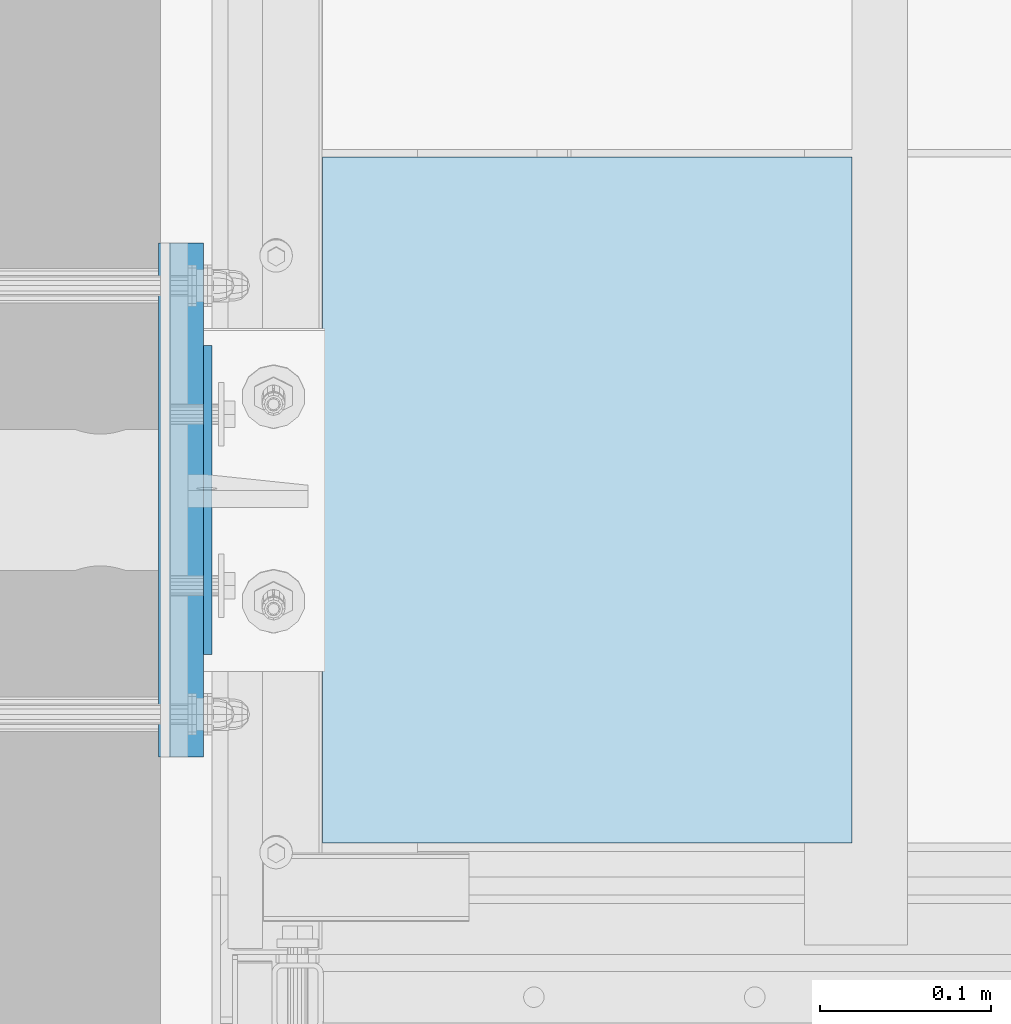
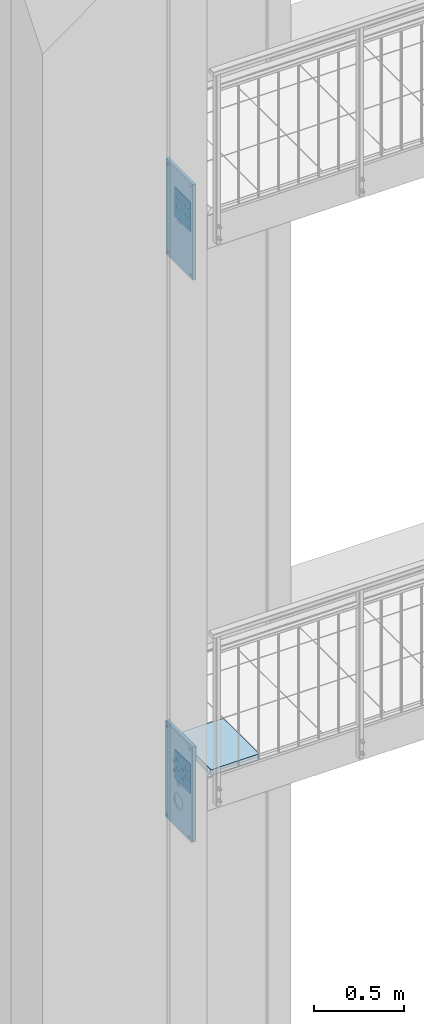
# One storey, part 56 of 162: 6 plates, 28 openings.
"""IFC2X3 building model written with IfcOpenShell, lengths in millimetres."""

from ifc_helpers import new_model, entity, si_unit, converted_unit, point, frame, frame_2d, origin, origin_with_axes, place, context, project, spatial, polyline, circle_curve, line_curve, trimmed, segment, composite_curve, circle, outline, extrude, material, layer, layer_set, element, save


model = new_model("IFC2X3")

# Units and contexts
model_context = context("Model", 3, precision=1e-09, world=origin_with_axes())
ifc_project = project(units=[si_unit("LENGTHUNIT", "METRE", prefix="MILLI"), si_unit("AREAUNIT", "SQUARE_METRE"), si_unit("VOLUMEUNIT", "CUBIC_METRE"), converted_unit("PLANEANGLEUNIT", "DEGREE", entity("IfcPlaneAngleMeasure", 0.01745329), si_unit("PLANEANGLEUNIT", "RADIAN"), dimensions=[0, 0, 0, 0, 0, 0, 0])], contexts=[model_context])

# Site, building, storey
site_placement = place(None, origin_with_axes())
site = spatial("IfcSite", under=ifc_project, at=site_placement, Name="Hermannstra?e 1a, 60318 Frankfurt", CompositionType="ELEMENT")
building_placement = place(site_placement, origin_with_axes())
building = spatial("IfcBuilding", under=site, at=building_placement, Name="Struktur 1", CompositionType="ELEMENT")
storey_placement = place(building_placement, origin_with_axes())
storey = spatial("IfcBuildingStorey", under=building, at=storey_placement, Name="Default Storey", CompositionType="ELEMENT", Elevation=0.0)

# Plate, openings
ifc_material_1 = material(Name="S235JR")
ifc_layer_1 = layer(ifc_material_1, 20.0)
ifc_layer_set_1 = layer_set([ifc_layer_1], Name="S235JR")
plate_1_placement = place(None, frame((2528.308657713, 1805.608666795, 7605.0), z_axis=(1.0, 0.0, 0.0), x_axis=(0.0, 1.0, 0.0)))
plate_1 = element("IfcPlate", 1, at=plate_1_placement, inside=storey, material=ifc_layer_set_1, Name="-", ObjectType="-", context=model_context, shape_type="SweptSolid", body=[
    extrude(outline(polyline([(-150.0, -325.0), (150.0, -325.0), (150.0, 325.0), (-150.0, 325.0), (-150.0, -325.0)])), origin_with_axes(), (0.0, 0.0, 1.0), 20.0),
])
opening_1_placement = place(plate_1_placement, frame((0.0, 0.0, -0.5), z_axis=(0.0, 0.0, 1.0), x_axis=(1.0, 0.0, 0.0)))
element("IfcOpeningElement", 2, at=opening_1_placement, cuts=plate_1, ObjectType="Opening", context=model_context, shape_type="SweptSolid", body=[
    extrude(circle(Radius=8.001, at=frame_2d((125.0, 300.0), x_axis=(1.0, 0.0))), origin(), (0.0, 0.0, 1.0), 21.0),
])
opening_2_placement = place(plate_1_placement, frame((0.0, 0.0, -0.5), z_axis=(0.0, 0.0, 1.0), x_axis=(1.0, 0.0, 0.0)))
element("IfcOpeningElement", 3, at=opening_2_placement, cuts=plate_1, ObjectType="Opening", context=model_context, shape_type="SweptSolid", body=[
    extrude(circle(Radius=8.001, at=frame_2d((-125.0, 300.0), x_axis=(1.0, 0.0))), origin(), (0.0, 0.0, 1.0), 21.0),
])
opening_3_placement = place(plate_1_placement, frame((0.0, 0.0, -0.5), z_axis=(0.0, 0.0, 1.0), x_axis=(1.0, 0.0, 0.0)))
element("IfcOpeningElement", 4, at=opening_3_placement, cuts=plate_1, ObjectType="Opening", context=model_context, shape_type="SweptSolid", body=[
    extrude(circle(Radius=8.001, at=frame_2d((125.0, -300.0), x_axis=(1.0, 0.0))), origin(), (0.0, 0.0, 1.0), 21.0),
])
opening_4_placement = place(plate_1_placement, frame((0.0, 0.0, -0.5), z_axis=(0.0, 0.0, 1.0), x_axis=(1.0, 0.0, 0.0)))
element("IfcOpeningElement", 5, at=opening_4_placement, cuts=plate_1, ObjectType="Opening", context=model_context, shape_type="SweptSolid", body=[
    extrude(circle(Radius=8.001, at=frame_2d((-125.0, -300.0), x_axis=(1.0, 0.0))), origin(), (0.0, 0.0, 1.0), 21.0),
])
opening_5_placement = place(plate_1_placement, frame((0.0, -5.0, -0.5), z_axis=(0.0, 0.0, 1.0), x_axis=(1.0, 0.0, 0.0)))
element("IfcOpeningElement", 6, at=opening_5_placement, cuts=plate_1, ObjectType="Opening", context=model_context, shape_type="SweptSolid", body=[
    extrude(circle(Radius=15.001, at=frame_2d((0.0, -10.0), x_axis=(1.0, 0.0))), origin(), (0.0, 0.0, 1.0), 21.0),
])

ifc_layer_2 = layer(ifc_material_1, 5.0)
ifc_layer_set_2 = layer_set([ifc_layer_2], Name="S235JR")
plate_2_placement = place(None, frame((2548.308657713, 1805.608666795, 7665.0), z_axis=(1.0, 0.0, 0.0), x_axis=(0.0, 1.0, 0.0)))
plate_2 = element("IfcPlate", 7, at=plate_2_placement, inside=storey, material=ifc_layer_set_2, Name="-", ObjectType="-", context=model_context, shape_type="SweptSolid", body=[
    extrude(outline(polyline([(-90.0, -100.0), (90.0, -100.0), (90.0, 100.0), (-90.0, 100.0), (-90.0, -100.0)])), origin_with_axes(), (0.0, 0.0, 1.0), 5.0),
])
opening_6_placement = place(plate_2_placement, frame((-2e-08, 19.999999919, -0.5), z_axis=(0.0, 0.0, 1.0), x_axis=(1.0, 0.0, 0.0)))
element("IfcOpeningElement", 8, at=opening_6_placement, cuts=plate_2, ObjectType="Opening", context=model_context, shape_type="SweptSolid", body=[
    extrude(outline(composite_curve([segment(trimmed(line_curve((41.5, 20.999), (1.0, 0.0), 17.0), [point((41.5, 20.999))], [point((58.5, 20.999))], True, "CARTESIAN"), True, "CONTINUOUS"), segment(trimmed(circle_curve(frame_2d((58.5, 30.0), x_axis=(1.0, 0.0)), 9.001), [point((58.5, 20.999))], [point((58.5, 39.001))], True, "CARTESIAN"), True, "CONTINUOUS"), segment(trimmed(line_curve((58.5, 39.001), (-1.0, 0.0), 17.0), [point((58.5, 39.001))], [point((41.5, 39.001))], True, "CARTESIAN"), True, "CONTINUOUS"), segment(trimmed(circle_curve(frame_2d((41.5, 30.0), x_axis=(1.0, 0.0)), 9.001), [point((41.5, 39.001))], [point((41.5, 20.999))], True, "CARTESIAN"), True, "CONTINUOUS")], self_intersect=False)), origin(), (0.0, 0.0, 1.0), 6.0),
])
opening_7_placement = place(plate_2_placement, frame((-2e-08, 19.999999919, -0.5), z_axis=(0.0, 0.0, 1.0), x_axis=(1.0, 0.0, 0.0)))
element("IfcOpeningElement", 9, at=opening_7_placement, cuts=plate_2, ObjectType="Opening", context=model_context, shape_type="SweptSolid", body=[
    extrude(outline(composite_curve([segment(trimmed(line_curve((-58.5, 20.999), (1.0, 0.0), 17.0), [point((-58.5, 20.999))], [point((-41.5, 20.999))], True, "CARTESIAN"), True, "CONTINUOUS"), segment(trimmed(circle_curve(frame_2d((-41.5, 30.0), x_axis=(1.0, 0.0)), 9.001), [point((-41.5, 20.999))], [point((-41.5, 39.001))], True, "CARTESIAN"), True, "CONTINUOUS"), segment(trimmed(line_curve((-41.5, 39.001), (-1.0, 0.0), 17.0), [point((-41.5, 39.001))], [point((-58.5, 39.001))], True, "CARTESIAN"), True, "CONTINUOUS"), segment(trimmed(circle_curve(frame_2d((-58.5, 30.0), x_axis=(1.0, 0.0)), 9.001), [point((-58.5, 39.001))], [point((-58.5, 20.999))], True, "CARTESIAN"), True, "CONTINUOUS")], self_intersect=False)), origin(), (0.0, 0.0, 1.0), 6.0),
])
opening_8_placement = place(plate_2_placement, frame((-2e-08, 19.999999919, -0.5), z_axis=(0.0, 0.0, 1.0), x_axis=(1.0, 0.0, 0.0)))
element("IfcOpeningElement", 10, at=opening_8_placement, cuts=plate_2, ObjectType="Opening", context=model_context, shape_type="SweptSolid", body=[
    extrude(outline(composite_curve([segment(trimmed(line_curve((41.5, -39.001), (1.0, 0.0), 17.0), [point((41.5, -39.001))], [point((58.5, -39.001))], True, "CARTESIAN"), True, "CONTINUOUS"), segment(trimmed(circle_curve(frame_2d((58.5, -30.0), x_axis=(1.0, 0.0)), 9.001), [point((58.5, -39.001))], [point((58.5, -20.999))], True, "CARTESIAN"), True, "CONTINUOUS"), segment(trimmed(line_curve((58.5, -20.999), (-1.0, 0.0), 17.0), [point((58.5, -20.999))], [point((41.5, -20.999))], True, "CARTESIAN"), True, "CONTINUOUS"), segment(trimmed(circle_curve(frame_2d((41.5, -30.0), x_axis=(1.0, 0.0)), 9.001), [point((41.5, -20.999))], [point((41.5, -39.001))], True, "CARTESIAN"), True, "CONTINUOUS")], self_intersect=False)), origin(), (0.0, 0.0, 1.0), 6.0),
])
opening_9_placement = place(plate_2_placement, frame((-2e-08, 19.999999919, -0.5), z_axis=(0.0, 0.0, 1.0), x_axis=(1.0, 0.0, 0.0)))
element("IfcOpeningElement", 11, at=opening_9_placement, cuts=plate_2, ObjectType="Opening", context=model_context, shape_type="SweptSolid", body=[
    extrude(outline(composite_curve([segment(trimmed(line_curve((-58.5, -39.001), (1.0, 0.0), 17.0), [point((-58.5, -39.001))], [point((-41.5, -39.001))], True, "CARTESIAN"), True, "CONTINUOUS"), segment(trimmed(circle_curve(frame_2d((-41.5, -30.0), x_axis=(1.0, 0.0)), 9.001), [point((-41.5, -39.001))], [point((-41.5, -20.999))], True, "CARTESIAN"), True, "CONTINUOUS"), segment(trimmed(line_curve((-41.5, -20.999), (-1.0, 0.0), 17.0), [point((-41.5, -20.999))], [point((-58.5, -20.999))], True, "CARTESIAN"), True, "CONTINUOUS"), segment(trimmed(circle_curve(frame_2d((-58.5, -30.0), x_axis=(1.0, 0.0)), 9.001), [point((-58.5, -20.999))], [point((-58.5, -39.001))], True, "CARTESIAN"), True, "CONTINUOUS")], self_intersect=False)), origin(), (0.0, 0.0, 1.0), 6.0),
])

ifc_material_2 = material(Name="Thermostop")
ifc_layer_3 = layer(ifc_material_2, 6.0)
ifc_layer_set_3 = layer_set([ifc_layer_3], Name="Thermostop")
plate_3_placement = place(None, frame((2522.310071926, 1805.610081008, 3780.0), z_axis=(1.0, 0.0, 0.0), x_axis=(0.0, 1.0, 0.0)))
plate_3 = element("IfcPlate", 12, at=plate_3_placement, inside=storey, material=ifc_layer_set_3, Name="-", ObjectType="-", context=model_context, shape_type="SweptSolid", body=[
    extrude(outline(polyline([(-150.0, -325.0), (150.0, -325.0), (150.0, 325.0), (-150.0, 325.0), (-150.0, -325.0)])), origin_with_axes(), (0.0, 0.0, 1.0), 6.0),
])
opening_10_placement = place(plate_3_placement, frame((0.0, 0.0, -0.5), z_axis=(0.0, 0.0, 1.0), x_axis=(1.0, 0.0, 0.0)))
element("IfcOpeningElement", 13, at=opening_10_placement, cuts=plate_3, ObjectType="Opening", context=model_context, shape_type="SweptSolid", body=[
    extrude(circle(Radius=10.001, at=frame_2d((125.0, 300.0), x_axis=(1.0, 0.0))), origin(), (0.0, 0.0, 1.0), 7.0),
])
opening_11_placement = place(plate_3_placement, frame((0.0, 0.0, -0.5), z_axis=(0.0, 0.0, 1.0), x_axis=(1.0, 0.0, 0.0)))
element("IfcOpeningElement", 14, at=opening_11_placement, cuts=plate_3, ObjectType="Opening", context=model_context, shape_type="SweptSolid", body=[
    extrude(circle(Radius=10.001, at=frame_2d((-125.0, 300.0), x_axis=(1.0, 0.0))), origin(), (0.0, 0.0, 1.0), 7.0),
])
opening_12_placement = place(plate_3_placement, frame((0.0, 0.0, -0.5), z_axis=(0.0, 0.0, 1.0), x_axis=(1.0, 0.0, 0.0)))
element("IfcOpeningElement", 15, at=opening_12_placement, cuts=plate_3, ObjectType="Opening", context=model_context, shape_type="SweptSolid", body=[
    extrude(circle(Radius=10.001, at=frame_2d((125.0, -300.0), x_axis=(1.0, 0.0))), origin(), (0.0, 0.0, 1.0), 7.0),
])
opening_13_placement = place(plate_3_placement, frame((0.0, 0.0, -0.5), z_axis=(0.0, 0.0, 1.0), x_axis=(1.0, 0.0, 0.0)))
element("IfcOpeningElement", 16, at=opening_13_placement, cuts=plate_3, ObjectType="Opening", context=model_context, shape_type="SweptSolid", body=[
    extrude(circle(Radius=10.001, at=frame_2d((-125.0, -300.0), x_axis=(1.0, 0.0))), origin(), (0.0, 0.0, 1.0), 7.0),
])
opening_14_placement = place(plate_3_placement, frame((0.0, -40.0, -0.5), z_axis=(0.0, 0.0, 1.0), x_axis=(1.0, 0.0, 0.0)))
element("IfcOpeningElement", 17, at=opening_14_placement, cuts=plate_3, ObjectType="Opening", context=model_context, shape_type="SweptSolid", body=[
    extrude(circle(Radius=11.001, at=frame_2d((50.0, 150.0), x_axis=(1.0, 0.0))), origin(), (0.0, 0.0, 1.0), 7.0),
])
opening_15_placement = place(plate_3_placement, frame((0.0, -40.0, -0.5), z_axis=(0.0, 0.0, 1.0), x_axis=(1.0, 0.0, 0.0)))
element("IfcOpeningElement", 18, at=opening_15_placement, cuts=plate_3, ObjectType="Opening", context=model_context, shape_type="SweptSolid", body=[
    extrude(circle(Radius=11.001, at=frame_2d((-50.0, 150.0), x_axis=(1.0, 0.0))), origin(), (0.0, 0.0, 1.0), 7.0),
])
opening_16_placement = place(plate_3_placement, frame((0.0, -40.0, -0.5), z_axis=(0.0, 0.0, 1.0), x_axis=(1.0, 0.0, 0.0)))
element("IfcOpeningElement", 19, at=opening_16_placement, cuts=plate_3, ObjectType="Opening", context=model_context, shape_type="SweptSolid", body=[
    extrude(circle(Radius=11.001, at=frame_2d((50.0, 90.0), x_axis=(1.0, 0.0))), origin(), (0.0, 0.0, 1.0), 7.0),
])
opening_17_placement = place(plate_3_placement, frame((0.0, -40.0, -0.5), z_axis=(0.0, 0.0, 1.0), x_axis=(1.0, 0.0, 0.0)))
element("IfcOpeningElement", 20, at=opening_17_placement, cuts=plate_3, ObjectType="Opening", context=model_context, shape_type="SweptSolid", body=[
    extrude(circle(Radius=11.001, at=frame_2d((-50.0, 90.0), x_axis=(1.0, 0.0))), origin(), (0.0, 0.0, 1.0), 7.0),
])
opening_18_placement = place(plate_3_placement, frame((0.0, -125.0, -0.5), z_axis=(0.0, 0.0, 1.0), x_axis=(1.0, 0.0, 0.0)))
element("IfcOpeningElement", 21, at=opening_18_placement, cuts=plate_3, ObjectType="Opening", context=model_context, shape_type="SweptSolid", body=[
    extrude(circle(Radius=50.001, at=frame_2d((0.0, -10.0), x_axis=(1.0, 0.0))), origin(), (0.0, 0.0, 1.0), 7.0),
])
opening_19_placement = place(plate_3_placement, frame((0.0, -325.0, -0.5), z_axis=(0.0, 0.0, 1.0), x_axis=(1.0, 0.0, 0.0)))
element("IfcOpeningElement", 22, at=opening_19_placement, cuts=plate_3, ObjectType="Opening", context=model_context, shape_type="SweptSolid", body=[
    extrude(circle(Radius=15.001, at=frame_2d((0.0, 310.0), x_axis=(1.0, 0.0))), origin(), (0.0, 0.0, 1.0), 7.0),
])

plate_4_placement = place(None, frame((2528.310071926, 1805.610081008, 3780.0), z_axis=(1.0, 0.0, 0.0), x_axis=(0.0, 1.0, 0.0)))
plate_4 = element("IfcPlate", 23, at=plate_4_placement, inside=storey, material=ifc_layer_set_1, Name="-", ObjectType="-", context=model_context, shape_type="SweptSolid", body=[
    extrude(outline(polyline([(-150.0, -325.0), (150.0, -325.0), (150.0, 325.0), (-150.0, 325.0), (-150.0, -325.0)])), origin_with_axes(), (0.0, 0.0, 1.0), 20.0),
])
opening_20_placement = place(plate_4_placement, frame((0.0, 0.0, -0.5), z_axis=(0.0, 0.0, 1.0), x_axis=(1.0, 0.0, 0.0)))
element("IfcOpeningElement", 24, at=opening_20_placement, cuts=plate_4, ObjectType="Opening", context=model_context, shape_type="SweptSolid", body=[
    extrude(circle(Radius=8.001, at=frame_2d((125.0, 300.0), x_axis=(1.0, 0.0))), origin(), (0.0, 0.0, 1.0), 21.0),
])
opening_21_placement = place(plate_4_placement, frame((0.0, 0.0, -0.5), z_axis=(0.0, 0.0, 1.0), x_axis=(1.0, 0.0, 0.0)))
element("IfcOpeningElement", 25, at=opening_21_placement, cuts=plate_4, ObjectType="Opening", context=model_context, shape_type="SweptSolid", body=[
    extrude(circle(Radius=8.001, at=frame_2d((-125.0, 300.0), x_axis=(1.0, 0.0))), origin(), (0.0, 0.0, 1.0), 21.0),
])
opening_22_placement = place(plate_4_placement, frame((0.0, 0.0, -0.5), z_axis=(0.0, 0.0, 1.0), x_axis=(1.0, 0.0, 0.0)))
element("IfcOpeningElement", 26, at=opening_22_placement, cuts=plate_4, ObjectType="Opening", context=model_context, shape_type="SweptSolid", body=[
    extrude(circle(Radius=8.001, at=frame_2d((125.0, -300.0), x_axis=(1.0, 0.0))), origin(), (0.0, 0.0, 1.0), 21.0),
])
opening_23_placement = place(plate_4_placement, frame((0.0, 0.0, -0.5), z_axis=(0.0, 0.0, 1.0), x_axis=(1.0, 0.0, 0.0)))
element("IfcOpeningElement", 27, at=opening_23_placement, cuts=plate_4, ObjectType="Opening", context=model_context, shape_type="SweptSolid", body=[
    extrude(circle(Radius=8.001, at=frame_2d((-125.0, -300.0), x_axis=(1.0, 0.0))), origin(), (0.0, 0.0, 1.0), 21.0),
])
opening_24_placement = place(plate_4_placement, frame((0.0, -5.0, -0.5), z_axis=(0.0, 0.0, 1.0), x_axis=(1.0, 0.0, 0.0)))
element("IfcOpeningElement", 28, at=opening_24_placement, cuts=plate_4, ObjectType="Opening", context=model_context, shape_type="SweptSolid", body=[
    extrude(circle(Radius=15.001, at=frame_2d((0.0, -10.0), x_axis=(1.0, 0.0))), origin(), (0.0, 0.0, 1.0), 21.0),
])

plate_5_placement = place(None, frame((2548.310071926, 1805.610081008, 3840.0), z_axis=(1.0, 0.0, 0.0), x_axis=(0.0, 1.0, 0.0)))
plate_5 = element("IfcPlate", 29, at=plate_5_placement, inside=storey, material=ifc_layer_set_2, Name="-", ObjectType="-", context=model_context, shape_type="SweptSolid", body=[
    extrude(outline(polyline([(-90.0, -100.0), (90.0, -100.0), (90.0, 100.0), (-90.0, 100.0), (-90.0, -100.0)])), origin_with_axes(), (0.0, 0.0, 1.0), 5.0),
])
opening_25_placement = place(plate_5_placement, frame((-2e-08, 19.999999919, -0.5), z_axis=(0.0, 0.0, 1.0), x_axis=(1.0, 0.0, 0.0)))
element("IfcOpeningElement", 30, at=opening_25_placement, cuts=plate_5, ObjectType="Opening", context=model_context, shape_type="SweptSolid", body=[
    extrude(outline(composite_curve([segment(trimmed(line_curve((41.5, 20.999), (1.0, 0.0), 17.0), [point((41.5, 20.999))], [point((58.5, 20.999))], True, "CARTESIAN"), True, "CONTINUOUS"), segment(trimmed(circle_curve(frame_2d((58.5, 30.0), x_axis=(1.0, 0.0)), 9.001), [point((58.5, 20.999))], [point((58.5, 39.001))], True, "CARTESIAN"), True, "CONTINUOUS"), segment(trimmed(line_curve((58.5, 39.001), (-1.0, 0.0), 17.0), [point((58.5, 39.001))], [point((41.5, 39.001))], True, "CARTESIAN"), True, "CONTINUOUS"), segment(trimmed(circle_curve(frame_2d((41.5, 30.0), x_axis=(1.0, 0.0)), 9.001), [point((41.5, 39.001))], [point((41.5, 20.999))], True, "CARTESIAN"), True, "CONTINUOUS")], self_intersect=False)), origin(), (0.0, 0.0, 1.0), 6.0),
])
opening_26_placement = place(plate_5_placement, frame((-2e-08, 19.999999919, -0.5), z_axis=(0.0, 0.0, 1.0), x_axis=(1.0, 0.0, 0.0)))
element("IfcOpeningElement", 31, at=opening_26_placement, cuts=plate_5, ObjectType="Opening", context=model_context, shape_type="SweptSolid", body=[
    extrude(outline(composite_curve([segment(trimmed(line_curve((-58.5, 20.999), (1.0, 0.0), 17.0), [point((-58.5, 20.999))], [point((-41.5, 20.999))], True, "CARTESIAN"), True, "CONTINUOUS"), segment(trimmed(circle_curve(frame_2d((-41.5, 30.0), x_axis=(1.0, 0.0)), 9.001), [point((-41.5, 20.999))], [point((-41.5, 39.001))], True, "CARTESIAN"), True, "CONTINUOUS"), segment(trimmed(line_curve((-41.5, 39.001), (-1.0, 0.0), 17.0), [point((-41.5, 39.001))], [point((-58.5, 39.001))], True, "CARTESIAN"), True, "CONTINUOUS"), segment(trimmed(circle_curve(frame_2d((-58.5, 30.0), x_axis=(1.0, 0.0)), 9.001), [point((-58.5, 39.001))], [point((-58.5, 20.999))], True, "CARTESIAN"), True, "CONTINUOUS")], self_intersect=False)), origin(), (0.0, 0.0, 1.0), 6.0),
])
opening_27_placement = place(plate_5_placement, frame((-2e-08, 19.999999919, -0.5), z_axis=(0.0, 0.0, 1.0), x_axis=(1.0, 0.0, 0.0)))
element("IfcOpeningElement", 32, at=opening_27_placement, cuts=plate_5, ObjectType="Opening", context=model_context, shape_type="SweptSolid", body=[
    extrude(outline(composite_curve([segment(trimmed(line_curve((41.5, -39.001), (1.0, 0.0), 17.0), [point((41.5, -39.001))], [point((58.5, -39.001))], True, "CARTESIAN"), True, "CONTINUOUS"), segment(trimmed(circle_curve(frame_2d((58.5, -30.0), x_axis=(1.0, 0.0)), 9.001), [point((58.5, -39.001))], [point((58.5, -20.999))], True, "CARTESIAN"), True, "CONTINUOUS"), segment(trimmed(line_curve((58.5, -20.999), (-1.0, 0.0), 17.0), [point((58.5, -20.999))], [point((41.5, -20.999))], True, "CARTESIAN"), True, "CONTINUOUS"), segment(trimmed(circle_curve(frame_2d((41.5, -30.0), x_axis=(1.0, 0.0)), 9.001), [point((41.5, -20.999))], [point((41.5, -39.001))], True, "CARTESIAN"), True, "CONTINUOUS")], self_intersect=False)), origin(), (0.0, 0.0, 1.0), 6.0),
])
opening_28_placement = place(plate_5_placement, frame((-2e-08, 19.999999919, -0.5), z_axis=(0.0, 0.0, 1.0), x_axis=(1.0, 0.0, 0.0)))
element("IfcOpeningElement", 33, at=opening_28_placement, cuts=plate_5, ObjectType="Opening", context=model_context, shape_type="SweptSolid", body=[
    extrude(outline(composite_curve([segment(trimmed(line_curve((-58.5, -39.001), (1.0, 0.0), 17.0), [point((-58.5, -39.001))], [point((-41.5, -39.001))], True, "CARTESIAN"), True, "CONTINUOUS"), segment(trimmed(circle_curve(frame_2d((-41.5, -30.0), x_axis=(1.0, 0.0)), 9.001), [point((-41.5, -39.001))], [point((-41.5, -20.999))], True, "CARTESIAN"), True, "CONTINUOUS"), segment(trimmed(line_curve((-41.5, -20.999), (-1.0, 0.0), 17.0), [point((-41.5, -20.999))], [point((-58.5, -20.999))], True, "CARTESIAN"), True, "CONTINUOUS"), segment(trimmed(circle_curve(frame_2d((-58.5, -30.0), x_axis=(1.0, 0.0)), 9.001), [point((-58.5, -20.999))], [point((-58.5, -39.001))], True, "CARTESIAN"), True, "CONTINUOUS")], self_intersect=False)), origin(), (0.0, 0.0, 1.0), 6.0),
])

# Plate
ifc_material_3 = material(Name="BWS")
ifc_layer_4 = layer(ifc_material_3, 40.0)
ifc_layer_set_4 = layer_set([ifc_layer_4], Name="BWS")
plate_6_placement = place(None, frame((2526.80936482, 2005.609373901, 3949.0), z_axis=(0.0, 0.0, -1.0), x_axis=(1.0, 0.0, 0.0)))
element("IfcPlate", 34, at=plate_6_placement, inside=storey, material=ifc_layer_set_4, Name="-", ObjectType="-", context=model_context, shape_type="SweptSolid", body=[
    extrude(outline(polyline([(91.0, 0.0), (400.0, 0.0), (400.0, 400.0), (91.0, 400.0), (91.0, 0.0)])), origin_with_axes(), (0.0, 0.0, 1.0), 40.0),
])

save(model, "model.ifc")
